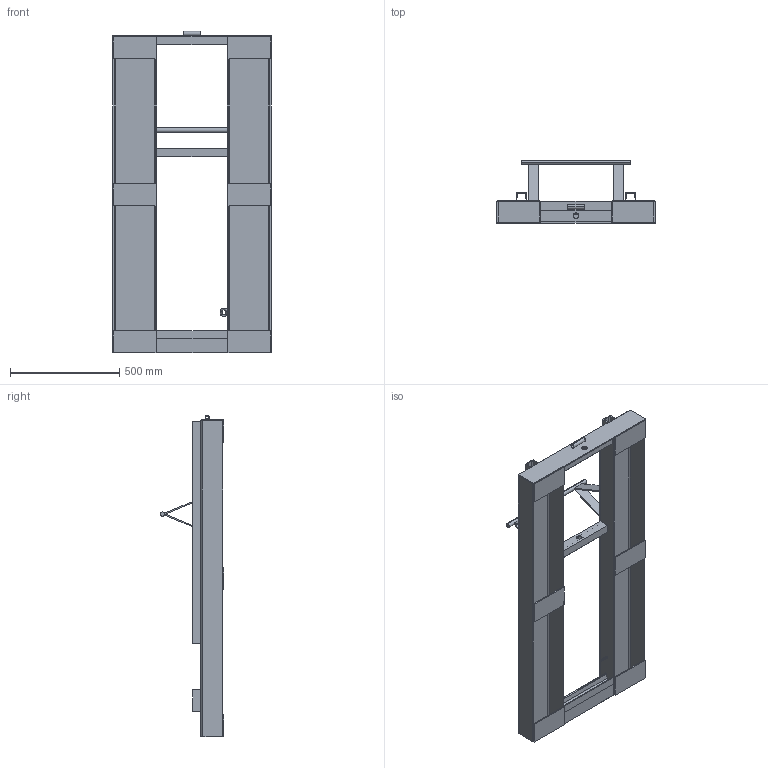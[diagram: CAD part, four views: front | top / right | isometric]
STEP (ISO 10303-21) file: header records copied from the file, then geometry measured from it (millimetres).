
FILE_DESCRIPTION (( 'STEP AP203' ), '1' );
FILE_NAME ('F-TS110-K-04²æÌ××éº¸.STEP', '2025-10-29T13:01:00', ( '' ), ( '' ), 'SwSTEP 2.0', 'SolidWorks 2018', '' );
FILE_SCHEMA (( 'CONFIG_CONTROL_DESIGN' ));
Length unit declared in the file: millimetre
Products named in the file (15): TS90-01-10-Q345嘐隅啣T8; TS110-01-01-Q235源倛啣-儂樓T5; YG-耳12-60-Q235埴詩; CG-T5×5#-100-Q235槽钢; TS90-01-12-Q235羞詩-儂樓(5#-321); 8#蟈諶; JG-T5x63x40-321-Q235褒詩; TS90-01-04-Q235源倛啣-儂樓T5; FXB-T5x100x195-Q235源倛啣; TS110-01-02-Q235 羞詩-儂樓; F-TS110-K-04脫杶郪爾; FXB-T5x177x50-Q235源倛啣; YG-耳20-500-45#埴詩; WFG-T3℅耳20-75-Q235拸瑜奪; CG-T5×5#-321-Q235槽钢
Assembly tree (28 placements, depth 2):
  F-TS110-K-04脫杶郪爾
    TS110-01-01-Q235源倛啣-儂樓T5  x2
    TS110-01-02-Q235 羞詩-儂樓  x2
    FXB-T5x100x195-Q235源倛啣  x6
    JG-T5x63x40-321-Q235褒詩
    TS90-01-10-Q345嘐隅啣T8  x2
    8#蟈諶  x2
    CG-T5×5#-321-Q235槽钢
    TS90-01-12-Q235羞詩-儂樓(5#-321)  x2
    YG-耳12-60-Q235埴詩
    CG-T5×5#-100-Q235槽钢  x2
    WFG-T3℅耳20-75-Q235拸瑜奪
    YG-耳20-500-45#埴詩
    FXB-T5x177x50-Q235源倛啣  x4
    TS90-01-04-Q235源倛啣-儂樓T5
Bounding box: 725 x 290 x 1472.6 mm (x, y, z)
Volume: 8896231.5 mm3; surface area: 3590429.4 mm2
Topology: 28 solids, 28 shells, 305 faces, 717 edges, 462 vertices
Faces by surface type: plane 192, cylinder 105, torus 8
Entity records: 6730 total; most frequent: CARTESIAN_POINT 878, DIRECTION 875, ORIENTED_EDGE 750, EDGE_CURVE 375, AXIS2_PLACEMENT_3D 315, LINE 245, VECTOR 245, VERTEX_POINT 242
